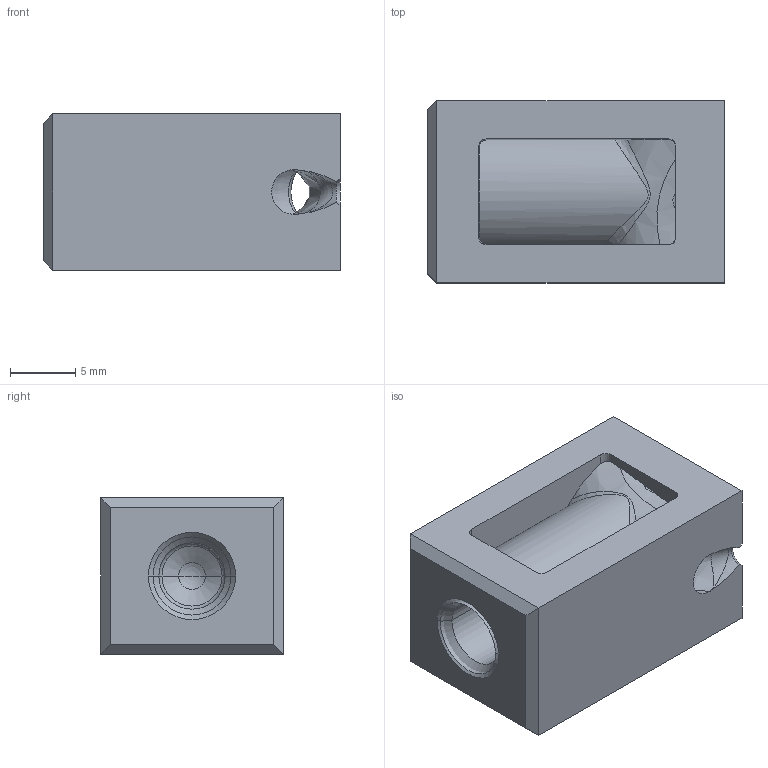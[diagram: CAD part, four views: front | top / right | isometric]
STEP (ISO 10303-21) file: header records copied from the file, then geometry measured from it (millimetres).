
FILE_DESCRIPTION((''),'2;1');
FILE_NAME('TGS14-16-S1','2004-03-24T',('tmeister'),(''),'PRO/ENGINEER BY PARAMETRIC TECHNOLOGY CORPORATION, 2002270','PRO/ENGINEER BY PARAMETRIC TECHNOLOGY CORPORATION, 2002270','');
FILE_SCHEMA(('CONFIG_CONTROL_DESIGN'));
Length unit declared in the file: millimetre
Products named in the file (1): TGS14-16-S1
Bounding box: 22.8 x 14 x 12 mm (x, y, z)
Volume: 2901 mm3; surface area: 2271.5 mm2
Topology: 1 solids, 2 shells, 66 faces, 238 edges, 173 vertices
Faces by surface type: plane 22, bspline 14, cone 13, cylinder 12, sphere 3, torus 2
Entity records: 4872 total; most frequent: CARTESIAN_POINT 3168, ORIENTED_EDGE 326, DIRECTION 275, EDGE_CURVE 165, VERTEX_POINT 104, B_SPLINE_CURVE_WITH_KNOTS 104, AXIS2_PLACEMENT_3D 93, VECTOR 89
